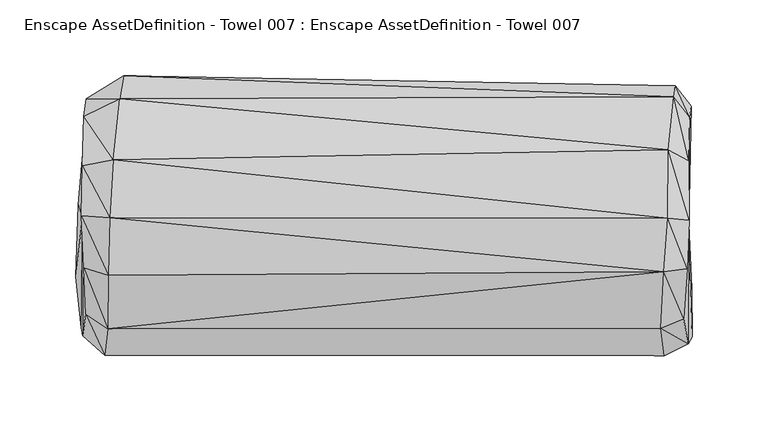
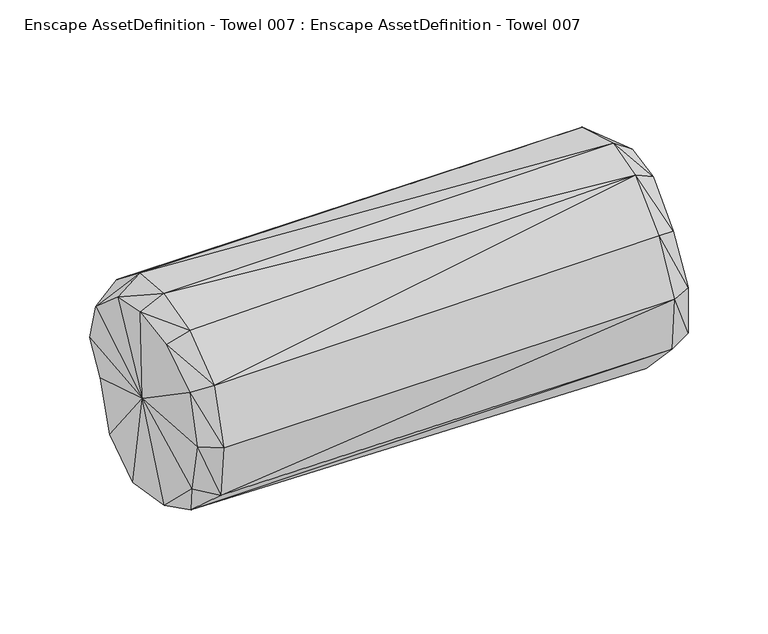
"""IFC4 building model written with IfcOpenShell, lengths in millimetres: geographic element geometry, Enscape AssetDefinition - Towel 007 : Enscape AssetDefinition - Towel 007."""

from ifc_helpers import new_model, si_unit, origin, place, context, project, spatial, triangles, source, transform, mapped, element, save


def enscape_assetdefinition_towel_007_enscape_assetdefinition_5b0beda9(model_context):
    return source(origin(), model_context, "Body", "Tessellation", [
        triangles([(185.6839967, 4.3938091, 167.9057033), (186.0920568, 49.3937056, 154.1032391), (-179.337927, 43.0506108, 159.564788), (183.2998763, -30.8874088, 162.3867087), (-199.7796298, 38.9529594, 148.5812651), (-181.6289208, 4.6117166, 165.9821833), (-200.2342714, 6.0380206, 155.6959471), (-182.4817576, -33.1675113, 157.3213384), (-198.5910577, 71.5865961, 120.2929027), (-172.4758276, 98.162404, 88.1911558), (-174.9163764, 83.174329, 128.4575025), (-197.0201325, 83.1802607, 85.9070837), (-199.7004014, 4.2293876, 82.0946892), (-177.2083876, 75.4881294, 58.8687178), (-197.5748225, 67.3968264, 60.4822276), (-179.6816196, 57.0452326, 16.5213548), (-199.1100667, 50.9210334, 22.2770877), (187.6302987, 71.871853, 57.3047371), (183.8535489, 49.1856969, 14.7563043), (-183.9318144, 13.2685885, -4.0104897), (-202.2112946, 13.4419257, 4.6236027), (-203.8832492, -34.0896593, 14.2670037), (-184.7331282, -38.9866328, 6.580808), (180.6839931, 12.4979903, -2.9942483), (198.4781467, 11.110315, 1.8016992), (199.1377903, 43.6934404, 21.677842), (184.1061497, -44.2401866, 3.0526871), (201.5060688, -41.6163824, 9.2442333), (185.0084747, -80.0830115, 41.3142842), (-184.0090808, -79.5689532, 43.4111493), (201.8468001, -73.4685306, 45.1732283), (183.5643405, -86.1200431, 88.5893328), (-182.9294229, -68.4734958, 131.5715929), (199.1952541, -78.1753246, 88.1168689), (-200.4868359, -67.4829994, 47.7277009), (-199.4171156, -73.0485617, 86.8361695), (-197.3707652, -58.9083411, 124.5500193), (-184.8123566, -85.8535986, 88.6517291), (-198.6376029, -28.0704569, 147.8136339), (181.080208, -68.1307841, 133.570399), (196.34065, -61.7302391, 128.2227603), (198.7643938, -28.7697419, 154.1062185), (199.764787, 0.5289211, 81.062612), (200.3590821, 71.0665879, 112.3036102), (199.6419565, 61.5886008, 60.380208), (200.1243217, 3.1240022, 158.2959701), (199.6647386, 42.2918998, 145.0244146), (189.8965485, 84.4391773, 117.7087127), (190.7166656, 91.8351648, 84.4025426), (201.2435848, 78.3040958, 84.3183453)], [[35, 22, 23], [22, 35, 13], [35, 36, 13], [37, 39, 13], [36, 37, 13], [50, 45, 18], [18, 49, 50], [44, 50, 49], [49, 48, 44], [47, 44, 48], [48, 2, 47], [46, 47, 2], [45, 50, 43], [50, 44, 43], [44, 47, 43], [47, 46, 43], [46, 42, 43], [42, 41, 43], [41, 34, 43], [41, 42, 4], [4, 40, 41], [34, 41, 40], [39, 37, 33], [33, 40, 4], [37, 36, 38], [38, 33, 37], [36, 35, 30], [30, 38, 36], [23, 30, 35], [40, 32, 34], [33, 38, 32], [32, 40, 33], [32, 38, 30], [34, 31, 43], [31, 34, 32], [32, 29, 31], [30, 29, 32], [29, 30, 23], [31, 28, 43], [28, 31, 29], [29, 27, 28], [23, 27, 29], [28, 25, 43], [25, 28, 27], [25, 26, 43], [26, 45, 43], [45, 26, 19], [19, 18, 45], [27, 24, 25], [26, 25, 24], [24, 19, 26], [20, 23, 22], [20, 24, 27], [27, 23, 20], [21, 22, 13], [22, 21, 20], [16, 20, 21], [16, 19, 24], [24, 20, 16], [18, 19, 16], [17, 21, 13], [21, 17, 16], [14, 16, 17], [16, 14, 18], [15, 17, 13], [17, 15, 14], [10, 14, 15], [10, 49, 18], [18, 14, 10], [48, 49, 10], [12, 15, 13], [15, 12, 10], [11, 10, 12], [10, 11, 48], [11, 3, 2], [2, 48, 11], [9, 12, 13], [12, 9, 11], [3, 11, 9], [5, 9, 13], [9, 5, 3], [39, 7, 13], [7, 5, 13], [7, 39, 8], [33, 8, 39], [4, 8, 33], [8, 6, 7], [5, 7, 6], [6, 3, 5], [6, 8, 4], [42, 46, 1], [1, 4, 42], [2, 1, 46], [4, 1, 6], [3, 6, 1], [1, 2, 3]]),
    ])


if __name__ == "__main__":
    model = new_model("IFC4")
    model_context = context("Model", 3, world=origin())
    ifc_project = project(units=[si_unit("LENGTHUNIT", "METRE", prefix="MILLI")], contexts=[model_context])
    site = spatial("IfcSite", under=ifc_project)
    building = spatial("IfcBuilding", under=site)
    placement = place(None, origin())
    enscape_assetdefinition_towel_007_enscape_assetdefinition_shape = enscape_assetdefinition_towel_007_enscape_assetdefinition_5b0beda9(model_context)
    element("IfcGeographicElement", 1, ObjectType="Enscape AssetDefinition - Towel 007 : Enscape AssetDefinition - Towel 007", at=placement, inside=building, context=model_context, shape_type="MappedRepresentation", body=[
        mapped(enscape_assetdefinition_towel_007_enscape_assetdefinition_shape, transform((0.0, 0.0, 0.0), x_axis=(1.0, 0.0, 0.0), y_axis=(0.0, 1.0, 0.0), z_axis=(0.0, 0.0, 1.0))),
    ])
    save(model, "model.ifc")
